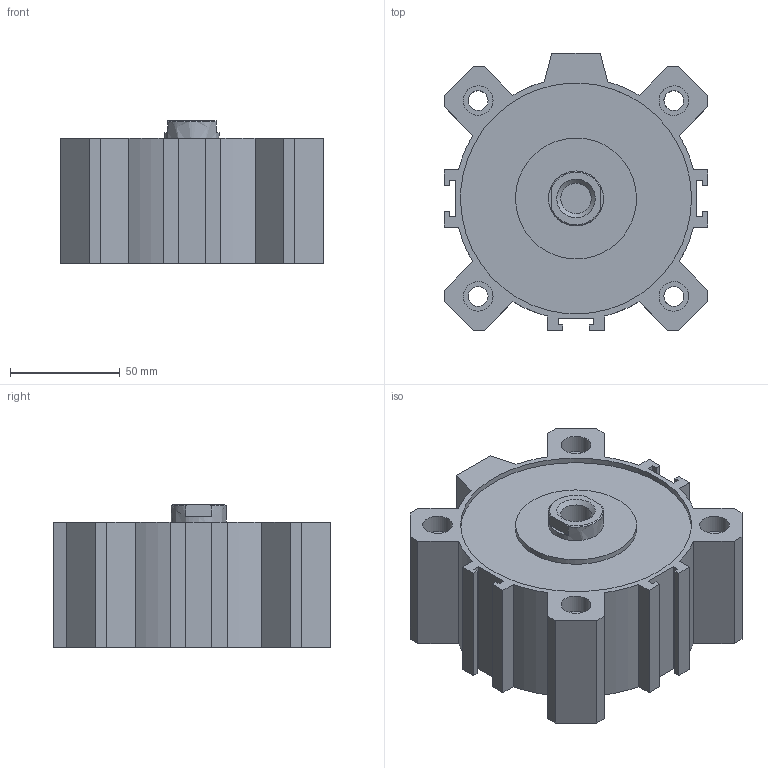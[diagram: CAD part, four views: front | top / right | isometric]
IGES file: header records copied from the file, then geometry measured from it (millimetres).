
Global section: file name: 1512_100_0010; native system: Autodesk Inventor 2014; preprocessor: unknown; author: A. Manieri; date: 20160907.151257; units: millimetre
Bounding box: 120 x 126 x 65 mm (x, y, z)
Volume: 561424.6 mm3; surface area: 118728.3 mm2
Topology: 2 solids, 2 shells, 118 faces, 302 edges, 206 vertices
Faces by surface type: bspline 118
